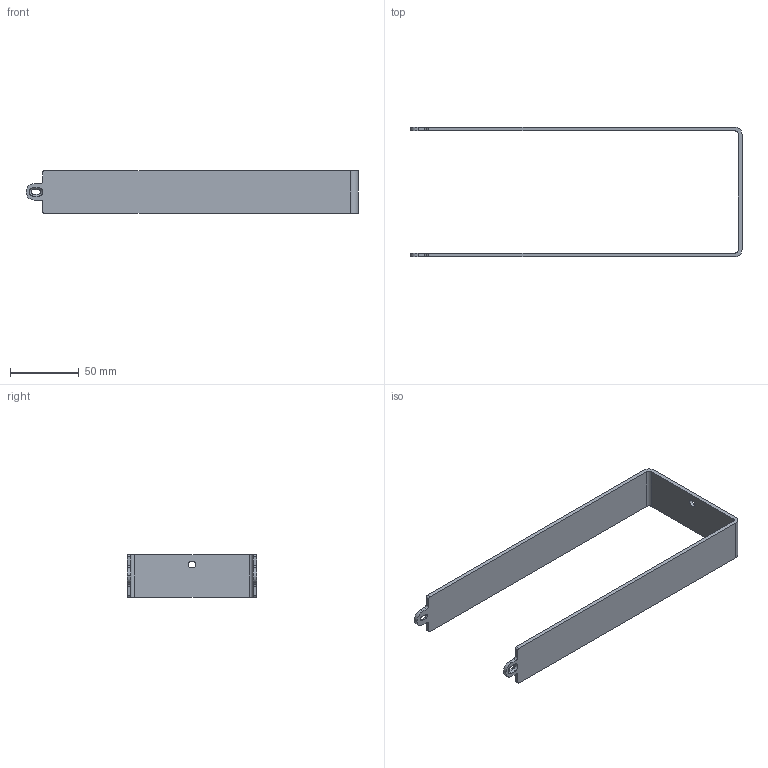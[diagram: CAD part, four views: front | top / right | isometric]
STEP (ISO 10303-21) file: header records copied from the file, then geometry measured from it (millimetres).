
FILE_DESCRIPTION((''),'2;1');
FILE_NAME('PRT0001','2015-07-08T',('jbuhisan'),(''),'PRO/ENGINEER BY PARAMETRIC TECHNOLOGY CORPORATION, 2014000','PRO/ENGINEER BY PARAMETRIC TECHNOLOGY CORPORATION, 2014000','');
FILE_SCHEMA(('CONFIG_CONTROL_DESIGN'));
Length unit declared in the file: inch
Products named in the file (1): PRT0001
Bounding box: 241.34 x 94.19 x 31 mm (x, y, z)
Volume: 45441 mm3; surface area: 37379.9 mm2
Topology: 1 solids, 1 shells, 51 faces, 139 edges, 90 vertices
Faces by surface type: plane 26, cylinder 21, cone 4
Entity records: 1667 total; most frequent: DIRECTION 287, CARTESIAN_POINT 280, ORIENTED_EDGE 278, EDGE_CURVE 139, AXIS2_PLACEMENT_3D 97, VECTOR 93, LINE 93, VERTEX_POINT 90
